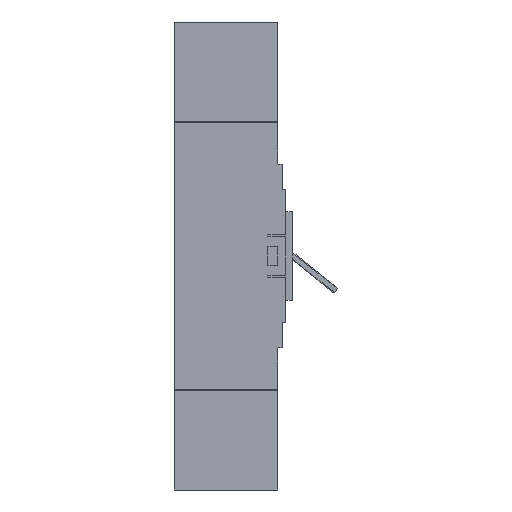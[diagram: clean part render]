
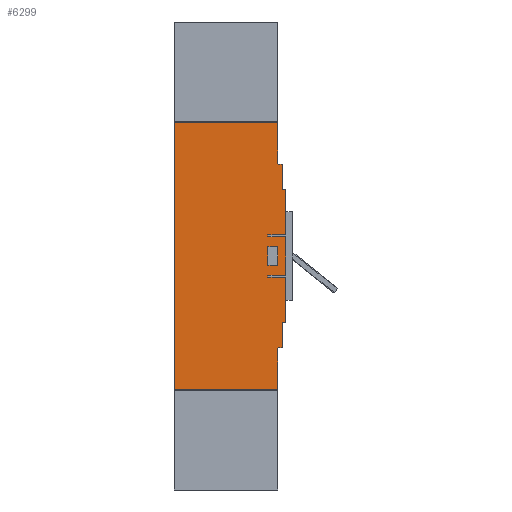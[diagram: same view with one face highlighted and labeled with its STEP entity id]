
A CAD part, left-side view. The second image highlights one B-rep face of the part: STEP entity #6299.
In plain terms, the highlighted planar face has unit normal (-1, 0, 0).
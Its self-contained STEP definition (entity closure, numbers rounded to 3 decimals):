
#141=CIRCLE('',#6655,1.);
#142=CIRCLE('',#6656,1.);
#393=FACE_BOUND('',#858,.T.);
#490=FACE_OUTER_BOUND('',#857,.T.);
#857=EDGE_LOOP('',(#4464,#4465,#4466,#4467,#4468,#4469,#4470,#4471,#4472,
#4473,#4474,#4475,#4476,#4477,#4478,#4479,#4480,#4481,#4482,#4483,#4484,
#4485));
#858=EDGE_LOOP('',(#4486,#4487,#4488,#4489));
#1197=LINE('',#8492,#1897);
#1201=LINE('',#8500,#1901);
#1204=LINE('',#8506,#1904);
#1208=LINE('',#8515,#1908);
#1212=LINE('',#8523,#1912);
#1215=LINE('',#8529,#1915);
#1219=LINE('',#8538,#1919);
#1223=LINE('',#8546,#1923);
#1226=LINE('',#8552,#1926);
#1229=LINE('',#8557,#1929);
#1231=LINE('',#8562,#1931);
#1243=LINE('',#8585,#1943);
#1244=LINE('',#8586,#1944);
#1384=LINE('',#9127,#2084);
#1387=LINE('',#9133,#2087);
#1389=LINE('',#9138,#2089);
#1392=LINE('',#9144,#2092);
#1394=LINE('',#9148,#2094);
#1397=LINE('',#9154,#2097);
#1398=LINE('',#9158,#2098);
#1399=LINE('',#9160,#2099);
#1400=LINE('',#9162,#2100);
#1401=LINE('',#9164,#2101);
#1402=LINE('',#9166,#2102);
#1897=VECTOR('',#7014,18.);
#1901=VECTOR('',#7020,2.);
#1904=VECTOR('',#7025,18.);
#1908=VECTOR('',#7033,18.);
#1912=VECTOR('',#7039,2.);
#1915=VECTOR('',#7044,18.);
#1919=VECTOR('',#7052,10.);
#1923=VECTOR('',#7058,18.4);
#1926=VECTOR('',#7063,10.);
#1929=VECTOR('',#7068,18.4);
#1931=VECTOR('',#7074,45.8);
#1943=VECTOR('',#7086,45.8);
#1944=VECTOR('',#7087,38.4);
#2084=VECTOR('',#7255,3.5);
#2087=VECTOR('',#7260,25.25);
#2089=VECTOR('',#7264,3.5);
#2092=VECTOR('',#7269,25.25);
#2094=VECTOR('',#7273,3.5);
#2097=VECTOR('',#7278,3.5);
#2098=VECTOR('',#7281,41.);
#2099=VECTOR('',#7282,104.);
#2100=VECTOR('',#7283,268.5);
#2101=VECTOR('',#7284,104.);
#2102=VECTOR('',#7285,41.);
#2597=VERTEX_POINT('',#8490);
#2598=VERTEX_POINT('',#8491);
#2601=VERTEX_POINT('',#8499);
#2603=VERTEX_POINT('',#8505);
#2605=VERTEX_POINT('',#8513);
#2606=VERTEX_POINT('',#8514);
#2609=VERTEX_POINT('',#8522);
#2611=VERTEX_POINT('',#8528);
#2613=VERTEX_POINT('',#8536);
#2614=VERTEX_POINT('',#8537);
#2617=VERTEX_POINT('',#8545);
#2619=VERTEX_POINT('',#8551);
#2621=VERTEX_POINT('',#8561);
#2632=VERTEX_POINT('',#8583);
#2811=VERTEX_POINT('',#9125);
#2813=VERTEX_POINT('',#9131);
#2815=VERTEX_POINT('',#9137);
#2817=VERTEX_POINT('',#9143);
#2818=VERTEX_POINT('',#9147);
#2820=VERTEX_POINT('',#9153);
#2821=VERTEX_POINT('',#9155);
#2822=VERTEX_POINT('',#9157);
#2823=VERTEX_POINT('',#9159);
#2824=VERTEX_POINT('',#9161);
#2825=VERTEX_POINT('',#9163);
#2826=VERTEX_POINT('',#9165);
#3219=EDGE_CURVE('',#2597,#2598,#1197,.T.);
#3223=EDGE_CURVE('',#2601,#2597,#1201,.T.);
#3226=EDGE_CURVE('',#2603,#2601,#1204,.T.);
#3230=EDGE_CURVE('',#2605,#2606,#1208,.T.);
#3234=EDGE_CURVE('',#2609,#2605,#1212,.T.);
#3237=EDGE_CURVE('',#2611,#2609,#1215,.T.);
#3241=EDGE_CURVE('',#2613,#2614,#1219,.T.);
#3245=EDGE_CURVE('',#2617,#2613,#1223,.T.);
#3248=EDGE_CURVE('',#2619,#2617,#1226,.T.);
#3251=EDGE_CURVE('',#2614,#2619,#1229,.T.);
#3253=EDGE_CURVE('',#2603,#2621,#1231,.T.);
#3265=EDGE_CURVE('',#2632,#2606,#1243,.T.);
#3266=EDGE_CURVE('',#2611,#2598,#1244,.T.);
#3458=EDGE_CURVE('',#2632,#2811,#1384,.T.);
#3461=EDGE_CURVE('',#2811,#2813,#1387,.T.);
#3463=EDGE_CURVE('',#2815,#2621,#1389,.T.);
#3466=EDGE_CURVE('',#2817,#2815,#1392,.T.);
#3468=EDGE_CURVE('',#2817,#2818,#1394,.T.);
#3471=EDGE_CURVE('',#2820,#2813,#1397,.T.);
#3472=EDGE_CURVE('',#2821,#2820,#141,.T.);
#3473=EDGE_CURVE('',#2822,#2821,#1398,.T.);
#3474=EDGE_CURVE('',#2822,#2823,#1399,.T.);
#3475=EDGE_CURVE('',#2824,#2823,#1400,.T.);
#3476=EDGE_CURVE('',#2824,#2825,#1401,.T.);
#3477=EDGE_CURVE('',#2826,#2825,#1402,.T.);
#3478=EDGE_CURVE('',#2818,#2826,#142,.T.);
#4464=ORIENTED_EDGE('',*,*,#3219,.T.);
#4465=ORIENTED_EDGE('',*,*,#3266,.F.);
#4466=ORIENTED_EDGE('',*,*,#3237,.T.);
#4467=ORIENTED_EDGE('',*,*,#3234,.T.);
#4468=ORIENTED_EDGE('',*,*,#3230,.T.);
#4469=ORIENTED_EDGE('',*,*,#3265,.F.);
#4470=ORIENTED_EDGE('',*,*,#3458,.T.);
#4471=ORIENTED_EDGE('',*,*,#3461,.T.);
#4472=ORIENTED_EDGE('',*,*,#3471,.F.);
#4473=ORIENTED_EDGE('',*,*,#3472,.F.);
#4474=ORIENTED_EDGE('',*,*,#3473,.F.);
#4475=ORIENTED_EDGE('',*,*,#3474,.T.);
#4476=ORIENTED_EDGE('',*,*,#3475,.F.);
#4477=ORIENTED_EDGE('',*,*,#3476,.T.);
#4478=ORIENTED_EDGE('',*,*,#3477,.F.);
#4479=ORIENTED_EDGE('',*,*,#3478,.F.);
#4480=ORIENTED_EDGE('',*,*,#3468,.F.);
#4481=ORIENTED_EDGE('',*,*,#3466,.T.);
#4482=ORIENTED_EDGE('',*,*,#3463,.T.);
#4483=ORIENTED_EDGE('',*,*,#3253,.F.);
#4484=ORIENTED_EDGE('',*,*,#3226,.T.);
#4485=ORIENTED_EDGE('',*,*,#3223,.T.);
#4486=ORIENTED_EDGE('',*,*,#3241,.T.);
#4487=ORIENTED_EDGE('',*,*,#3251,.T.);
#4488=ORIENTED_EDGE('',*,*,#3248,.T.);
#4489=ORIENTED_EDGE('',*,*,#3245,.T.);
#6071=PLANE('',#6654);
#6299=ADVANCED_FACE('',(#490,#393),#6071,.F.);
#6654=AXIS2_PLACEMENT_3D('',#9152,#7276,#7277);
#6655=AXIS2_PLACEMENT_3D('',#9156,#7279,#7280);
#6656=AXIS2_PLACEMENT_3D('',#9167,#7286,#7287);
#7014=DIRECTION('',(0.,-1.,0.));
#7020=DIRECTION('',(0.,0.,1.));
#7025=DIRECTION('',(0.,1.,0.));
#7033=DIRECTION('',(0.,-1.,0.));
#7039=DIRECTION('',(0.,0.,1.));
#7044=DIRECTION('',(0.,1.,0.));
#7052=DIRECTION('',(0.,-1.,0.));
#7058=DIRECTION('',(0.,0.,1.));
#7063=DIRECTION('',(0.,1.,0.));
#7068=DIRECTION('',(0.,0.,-1.));
#7074=DIRECTION('',(0.,0.,-1.));
#7086=DIRECTION('',(0.,0.,-1.));
#7087=DIRECTION('',(0.,0.,-1.));
#7255=DIRECTION('',(0.,1.,0.));
#7260=DIRECTION('',(0.,0.,1.));
#7264=DIRECTION('',(0.,-1.,0.));
#7269=DIRECTION('',(0.,0.,1.));
#7273=DIRECTION('',(0.,1.,0.));
#7276=DIRECTION('center_axis',(1.,0.,0.));
#7277=DIRECTION('ref_axis',(0.,0.,1.));
#7278=DIRECTION('',(0.,-1.,0.));
#7279=DIRECTION('center_axis',(-1.,0.,0.));
#7280=DIRECTION('ref_axis',(0.,0.707,-0.707));
#7281=DIRECTION('',(0.,0.,-1.));
#7282=DIRECTION('',(0.,1.,0.));
#7283=DIRECTION('',(0.,0.,1.));
#7284=DIRECTION('',(0.,-1.,0.));
#7285=DIRECTION('',(0.,0.,-1.));
#7286=DIRECTION('center_axis',(-1.,0.,0.));
#7287=DIRECTION('ref_axis',(0.,0.707,0.707));
#8490=CARTESIAN_POINT('',(0.,101.396,98.169));
#8491=CARTESIAN_POINT('',(0.,83.396,98.169));
#8492=CARTESIAN_POINT('',(0.,114.581,98.169));
#8499=CARTESIAN_POINT('',(0.,101.396,96.169));
#8500=CARTESIAN_POINT('',(0.,101.396,105.572));
#8505=CARTESIAN_POINT('',(0.,83.396,96.169));
#8506=CARTESIAN_POINT('',(0.,105.581,96.169));
#8513=CARTESIAN_POINT('',(0.,101.396,138.569));
#8514=CARTESIAN_POINT('',(0.,83.396,138.569));
#8515=CARTESIAN_POINT('',(0.,114.581,138.569));
#8522=CARTESIAN_POINT('',(0.,101.396,136.569));
#8523=CARTESIAN_POINT('',(0.,101.396,125.772));
#8528=CARTESIAN_POINT('',(0.,83.396,136.569));
#8529=CARTESIAN_POINT('',(0.,105.581,136.569));
#8536=CARTESIAN_POINT('',(0.,101.396,126.569));
#8537=CARTESIAN_POINT('',(0.,91.396,126.569));
#8538=CARTESIAN_POINT('',(0.,114.581,126.569));
#8545=CARTESIAN_POINT('',(0.,101.396,108.169));
#8546=CARTESIAN_POINT('',(0.,101.396,111.572));
#8551=CARTESIAN_POINT('',(0.,91.396,108.169));
#8552=CARTESIAN_POINT('',(0.,109.581,108.169));
#8557=CARTESIAN_POINT('',(0.,91.396,120.772));
#8561=CARTESIAN_POINT('',(0.,83.396,50.369));
#8562=CARTESIAN_POINT('',(0.,83.396,209.619));
#8583=CARTESIAN_POINT('',(0.,83.396,184.369));
#8585=CARTESIAN_POINT('',(0.,83.396,209.619));
#8586=CARTESIAN_POINT('',(0.,83.396,209.619));
#9125=CARTESIAN_POINT('',(0.,86.896,184.369));
#9127=CARTESIAN_POINT('',(0.,105.581,184.369));
#9131=CARTESIAN_POINT('',(0.,86.896,209.619));
#9133=CARTESIAN_POINT('',(0.,86.896,149.672));
#9137=CARTESIAN_POINT('',(0.,86.896,50.369));
#9138=CARTESIAN_POINT('',(0.,107.331,50.369));
#9143=CARTESIAN_POINT('',(0.,86.896,25.119));
#9144=CARTESIAN_POINT('',(0.,86.896,70.047));
#9147=CARTESIAN_POINT('',(0.,90.396,25.119));
#9148=CARTESIAN_POINT('',(0.,83.396,25.119));
#9152=CARTESIAN_POINT('Origin',(0.,127.766,114.974));
#9153=CARTESIAN_POINT('',(0.,90.396,209.619));
#9154=CARTESIAN_POINT('',(0.,91.396,209.619));
#9155=CARTESIAN_POINT('',(0.,91.396,210.619));
#9156=CARTESIAN_POINT('Origin',(0.,90.396,210.619));
#9157=CARTESIAN_POINT('',(0.,91.396,251.619));
#9158=CARTESIAN_POINT('',(0.,91.396,252.619));
#9159=CARTESIAN_POINT('',(0.,195.396,251.619));
#9160=CARTESIAN_POINT('',(0.,161.581,251.619));
#9161=CARTESIAN_POINT('',(0.,195.396,-16.881));
#9162=CARTESIAN_POINT('',(0.,195.396,-17.881));
#9163=CARTESIAN_POINT('',(0.,91.396,-16.881));
#9164=CARTESIAN_POINT('',(0.,161.581,-16.881));
#9165=CARTESIAN_POINT('',(0.,91.396,24.119));
#9166=CARTESIAN_POINT('',(0.,91.396,25.119));
#9167=CARTESIAN_POINT('Origin',(0.,90.396,24.119));
